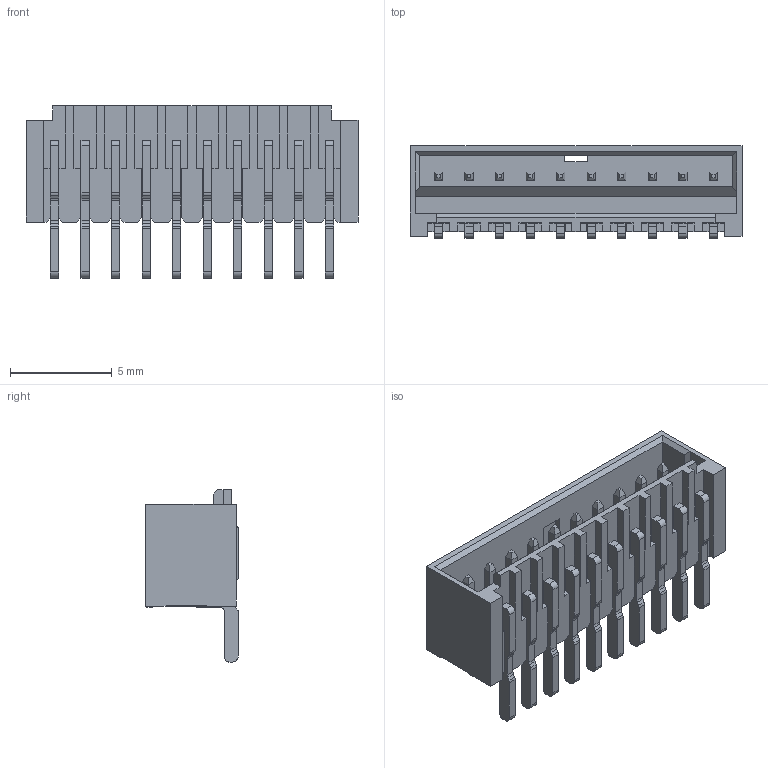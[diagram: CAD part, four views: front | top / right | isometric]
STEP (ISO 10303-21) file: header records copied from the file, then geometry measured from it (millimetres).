
FILE_DESCRIPTION (( 'STEP AP203' ), '1' );
FILE_NAME ('HC-ZHF-10PWT-05（1.50 单排 卧贴-HCTL）.STEP', '2026-06-15T09:55:04', ( '' ), ( '' ), 'SwSTEP 2.0', 'SolidWorks 2025', '' );
FILE_SCHEMA (( 'CONFIG_CONTROL_DESIGN' ));
Length unit declared in the file: millimetre
Products named in the file (1): HC-ZHF-10PWT-05（1.50 单排 卧贴-HCTL）
Bounding box: 16.3 x 4.55 x 8.45 mm (x, y, z)
Volume: 187.3 mm3; surface area: 843.9 mm2
Topology: 1 solids, 1 shells, 620 faces, 1754 edges, 1154 vertices
Faces by surface type: plane 500, cylinder 120
Entity records: 19911 total; most frequent: CARTESIAN_POINT 3529, ORIENTED_EDGE 3508, DIRECTION 3236, EDGE_CURVE 1754, LINE 1514, VECTOR 1514, VERTEX_POINT 1154, AXIS2_PLACEMENT_3D 861
